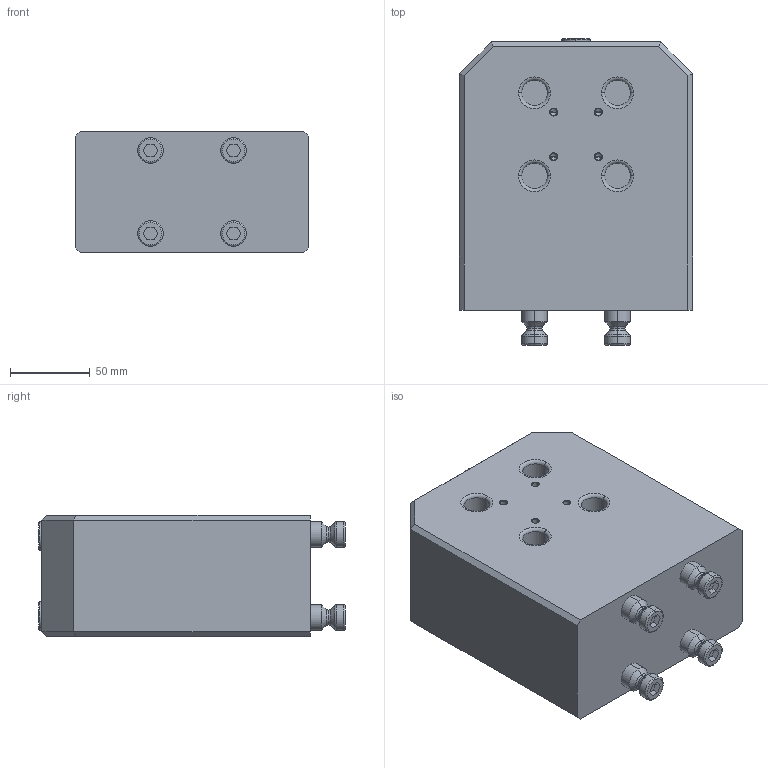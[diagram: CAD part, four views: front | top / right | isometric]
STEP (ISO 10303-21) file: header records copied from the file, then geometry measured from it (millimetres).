
FILE_DESCRIPTION (( 'STEP AP203' ), '1' );
FILE_NAME ('47220.STEP', '2012-12-19T14:08:27', ( '' ), ( '' ), 'SwSTEP 2.0', 'SolidWorks 2011', '' );
FILE_SCHEMA (( 'CONFIG_CONTROL_DESIGN' ));
Length unit declared in the file: millimetre
Products named in the file (1): 47220
Bounding box: 146 x 192 x 76 mm (x, y, z)
Volume: 1806294.4 mm3; surface area: 117594.4 mm2
Topology: 7 solids, 7 shells, 306 faces, 652 edges, 376 vertices
Faces by surface type: plane 94, cylinder 92, cone 72, torus 48
Entity records: 8089 total; most frequent: DIRECTION 1558, CARTESIAN_POINT 1311, ORIENTED_EDGE 1256, EDGE_CURVE 628, AXIS2_PLACEMENT_3D 623, VERTEX_POINT 376, EDGE_LOOP 346, CIRCLE 316
